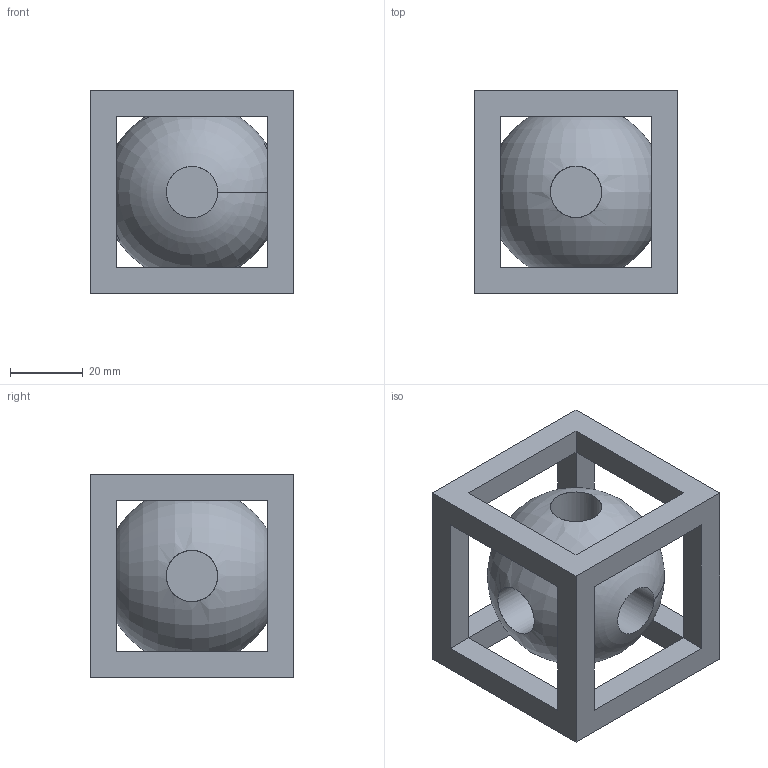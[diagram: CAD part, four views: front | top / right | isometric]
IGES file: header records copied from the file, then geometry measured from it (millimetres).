
Global section: file name: E:\Rhino Files\Mine\paradox box.igs; native system: Rhinoceros ( Apr 21 2004 ); preprocessor: Trout Lake IGES 012 Apr 21 2004; date: 050320.212547; units: inch
Bounding box: 55.93 x 55.93 x 55.93 mm (x, y, z)
Surface area: 28291.7 mm2 (no closed solid volume)
Topology: 0 solids, 0 shells, 55 faces, 1199 edges, 1182 vertices
Faces by surface type: bspline 55
